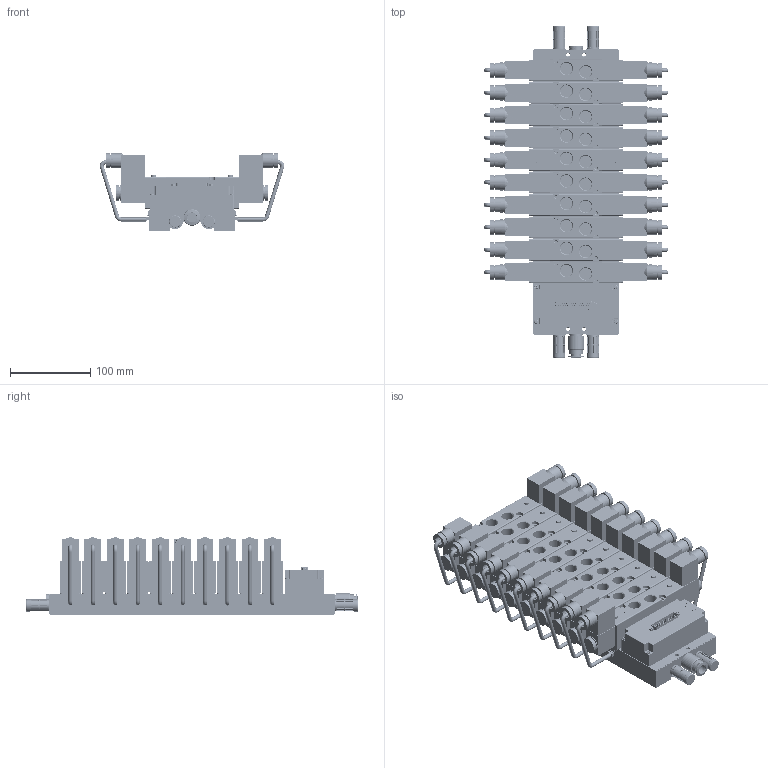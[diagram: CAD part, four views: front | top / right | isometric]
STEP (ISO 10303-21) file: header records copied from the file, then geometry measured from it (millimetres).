
FILE_DESCRIPTION (( 'STEP AP203' ), '1' );
FILE_NAME ('FV-A43-B5210-S12-M1-25V2.STEP', '2024-08-31T04:56:53', ( 'L' ), ( '' ), 'SwSTEP 2.0', 'SolidWorks 2019', '' );
FILE_SCHEMA (( 'CONFIG_CONTROL_DESIGN' ));
Length unit declared in the file: millimetre
Products named in the file (7): QS-G1_4-12-I.stp; A43B52.step; B-1_4.stp; FV-M1-25.step; U-1_4-30.stp; FV-A43-B5210-S12-M1-25V2; 10P.step
Assembly tree (18 placements, depth 2):
  FV-A43-B5210-S12-M1-25V2
    B-1_4.stp
    U-1_4-30.stp  x4
    QS-G1_4-12-I.stp
    FV-M1-25.step
    10P.step
    A43B52.step  x10
Bounding box: 230.29 x 414.1 x 96.5 mm (x, y, z)
Volume: 2977095.9 mm3; surface area: 709013.3 mm2
Topology: 68 solids, 68 shells, 7436 faces, 19056 edges, 12285 vertices
Faces by surface type: plane 4253, cylinder 2317, torus 467, cone 234, sphere 94, bspline 71
Entity records: 81982 total; most frequent: CARTESIAN_POINT 21116, DIRECTION 12679, ORIENTED_EDGE 12374, EDGE_CURVE 6187, AXIS2_PLACEMENT_3D 4589, VERTEX_POINT 3944, LINE 3501, VECTOR 3501
